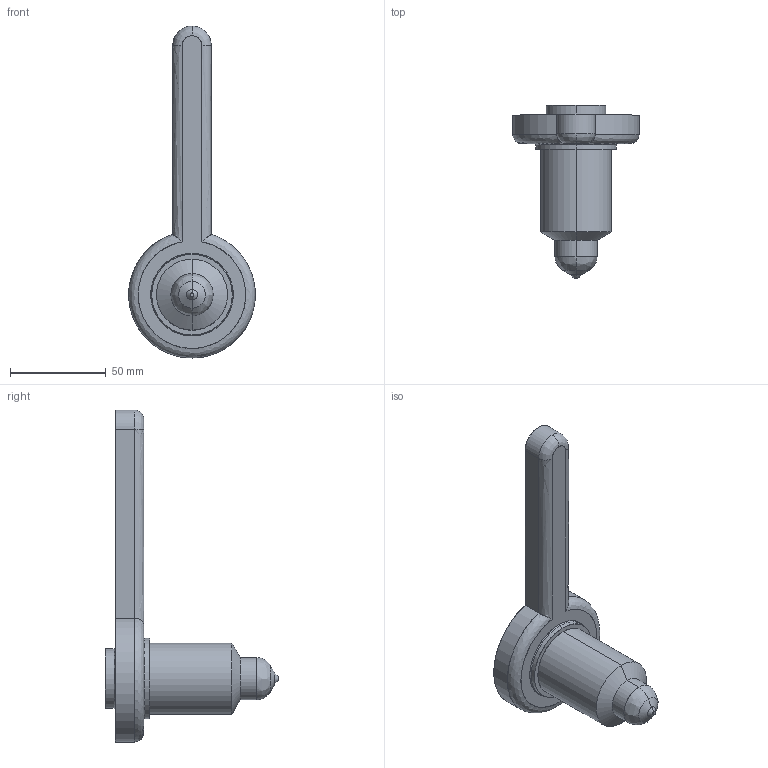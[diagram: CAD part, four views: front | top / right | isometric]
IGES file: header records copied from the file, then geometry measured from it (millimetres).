
Start section: SolidWorks IGES file using analytic representation for surfaces
Global section: file name: C:\Users\luca.EMPAD\Desktop\TEM\Sede UGDL3612-S-A C-67 L-85 Ød-2.0.IGS; native system: SolidWorks 2012; preprocessor: SolidWorks 2012; author: luca; date: 120330.161909; units: millimetre
Bounding box: 65.98 x 90.22 x 173 mm (x, y, z)
Surface area: 23207.8 mm2 (no closed solid volume)
Topology: 0 solids, 0 shells, 37 faces, 674 edges, 674 vertices
Faces by surface type: revolution 25, bspline 12
